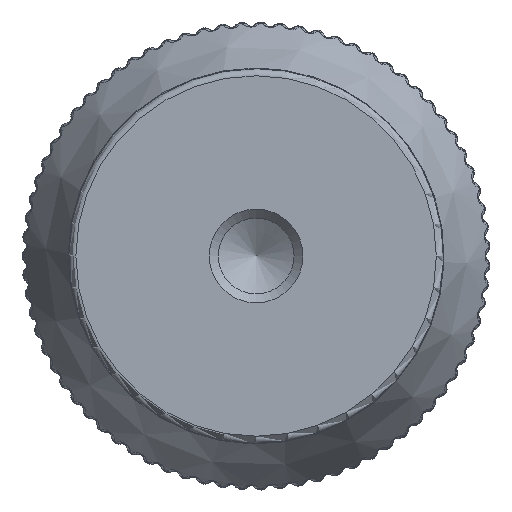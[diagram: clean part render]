
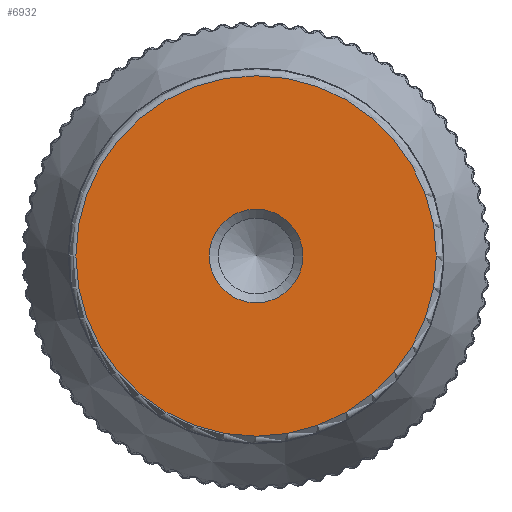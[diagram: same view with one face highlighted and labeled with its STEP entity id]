
A CAD part, left-side view. The second image highlights one B-rep face of the part: STEP entity #6932.
In plain terms, the highlighted planar face has unit normal (-1, 0, 0).
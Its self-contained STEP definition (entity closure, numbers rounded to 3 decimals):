
#919=FACE_BOUND('',#1539,.T.);
#920=PLANE('',#7419);
#1077=FACE_OUTER_BOUND('',#1538,.T.);
#1538=EDGE_LOOP('',(#4326));
#1539=EDGE_LOOP('',(#4327));
#2310=CIRCLE('',#7416,2.);
#2312=CIRCLE('',#7420,7.7);
#2627=VERTEX_POINT('',#9009);
#2629=VERTEX_POINT('',#9017);
#3243=EDGE_CURVE('',#2627,#2627,#2310,.T.);
#3247=EDGE_CURVE('',#2629,#2629,#2312,.T.);
#4326=ORIENTED_EDGE('',*,*,#3247,.T.);
#4327=ORIENTED_EDGE('',*,*,#3243,.T.);
#6932=ADVANCED_FACE('',(#1077,#919),#920,.F.);
#7416=AXIS2_PLACEMENT_3D('',#9010,#7899,#7900);
#7419=AXIS2_PLACEMENT_3D('',#9016,#7907,#7908);
#7420=AXIS2_PLACEMENT_3D('',#9018,#7909,#7910);
#7899=DIRECTION('center_axis',(1.,0.,0.));
#7900=DIRECTION('ref_axis',(0.,0.,1.));
#7907=DIRECTION('center_axis',(1.,0.,0.));
#7908=DIRECTION('ref_axis',(0.,0.951,-0.309));
#7909=DIRECTION('center_axis',(-1.,0.,0.));
#7910=DIRECTION('ref_axis',(0.,0.,-1.));
#9009=CARTESIAN_POINT('',(-20.25,31.,-2.));
#9010=CARTESIAN_POINT('Origin',(-20.25,31.,0.));
#9016=CARTESIAN_POINT('Origin',(-20.25,21.42,-29.483));
#9017=CARTESIAN_POINT('',(-20.25,31.,7.7));
#9018=CARTESIAN_POINT('Origin',(-20.25,31.,0.));
